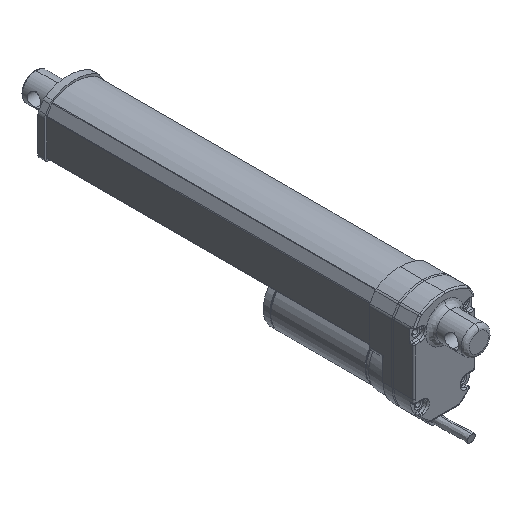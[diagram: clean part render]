
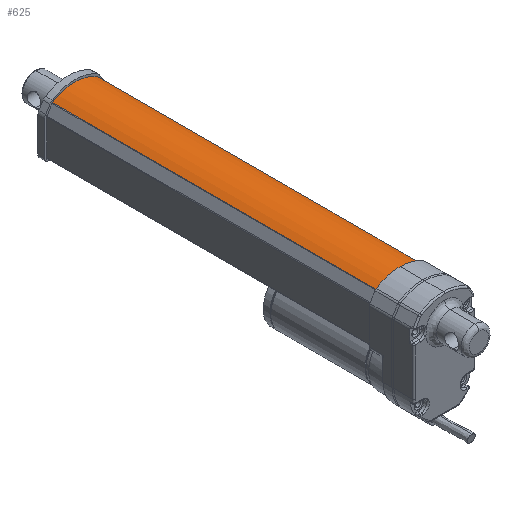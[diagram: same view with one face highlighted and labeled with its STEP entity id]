
A CAD part, isometric view. The second image highlights one B-rep face of the part: STEP entity #625.
In plain terms, the highlighted cylindrical face has radius 30 mm (diameter 60 mm), a partial arc.
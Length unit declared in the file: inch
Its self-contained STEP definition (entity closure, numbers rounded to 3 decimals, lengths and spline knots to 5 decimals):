
#625=ADVANCED_FACE('NONE',(#1672),#1673,.T.);
#1672=FACE_OUTER_BOUND('',#3253,.T.);
#1673=CYLINDRICAL_SURFACE('',#3254,1.1811);
#3253=EDGE_LOOP('',(#5881,#5882,#5883,#5884));
#3254=AXIS2_PLACEMENT_3D('',#5885,#5886,#5887);
#5881=ORIENTED_EDGE('',*,*,#10170,.T.);
#5882=ORIENTED_EDGE('',*,*,#10079,.T.);
#5883=ORIENTED_EDGE('',*,*,#10171,.T.);
#5884=ORIENTED_EDGE('',*,*,#10172,.T.);
#5885=CARTESIAN_POINT('',(0.,10.17717,0.25591));
#5886=DIRECTION('',(0.,-1.0,0.));
#5887=DIRECTION('',(-1.0,0.,0.));
#10079=EDGE_CURVE('NONE',#11864,#11869,#11871,.T.);
#10170=EDGE_CURVE('NONE',#12034,#11864,#12035,.T.);
#10171=EDGE_CURVE('NONE',#11869,#12036,#12037,.T.);
#10172=EDGE_CURVE('NONE',#12036,#12034,#12038,.T.);
#11864=VERTEX_POINT('NONE',#14465);
#11869=VERTEX_POINT('NONE',#14471);
#11871=LINE('',#14473,#14474);
#12034=VERTEX_POINT('NONE',#14707);
#12035=CIRCLE('',#14708,1.1811);
#12036=VERTEX_POINT('NONE',#14709);
#12037=CIRCLE('',#14710,1.1811);
#12038=LINE('',#14711,#14712);
#14465=CARTESIAN_POINT('',(0.64271,0.33465,1.24683));
#14471=CARTESIAN_POINT('',(0.64271,10.17717,1.24683));
#14473=CARTESIAN_POINT('',(0.64271,10.17717,1.24683));
#14474=VECTOR('',#18875,39.37008);
#14707=CARTESIAN_POINT('',(-0.64271,0.33465,1.24683));
#14708=AXIS2_PLACEMENT_3D('',#19024,#19025,#19026);
#14709=CARTESIAN_POINT('',(-0.64271,10.17717,1.24683));
#14710=AXIS2_PLACEMENT_3D('',#19027,#19028,#19029);
#14711=CARTESIAN_POINT('',(-0.64271,10.17717,1.24683));
#14712=VECTOR('',#19030,39.37008);
#18875=DIRECTION('',(0.,1.0,0.));
#19024=CARTESIAN_POINT('',(0.,0.33465,0.25591));
#19025=DIRECTION('',(0.,1.0,0.));
#19026=DIRECTION('',(-1.0,0.,0.));
#19027=CARTESIAN_POINT('',(0.,10.17717,0.25591));
#19028=DIRECTION('',(0.,-1.0,0.));
#19029=DIRECTION('',(-1.0,0.,0.));
#19030=DIRECTION('',(0.,-1.0,0.));
